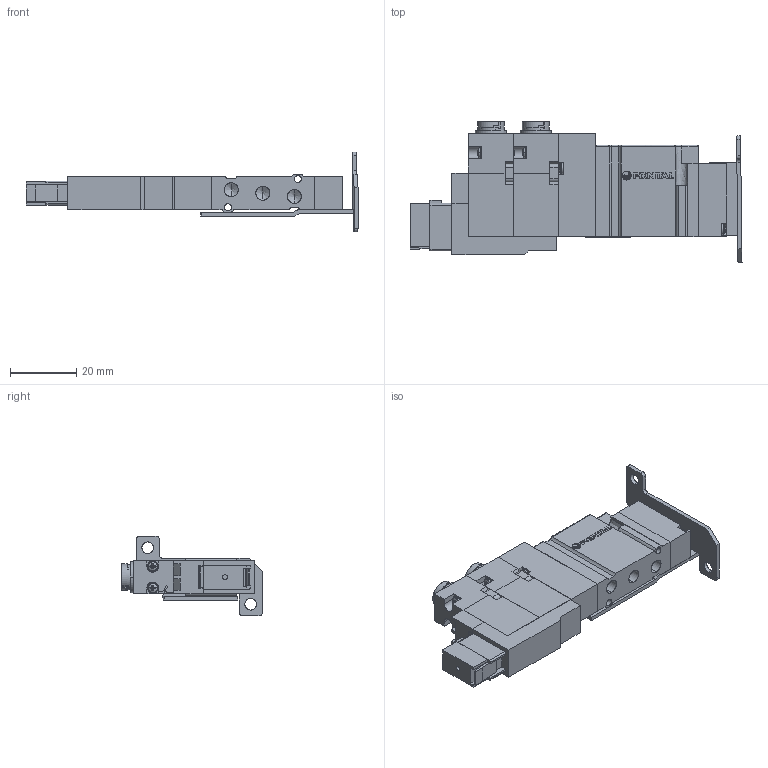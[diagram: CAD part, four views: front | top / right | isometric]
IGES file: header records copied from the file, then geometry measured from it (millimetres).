
Start section: SolidWorks IGES file using analytic representation for surfaces
Global section: file name: D:\Custom\3D繪製\ADEX\A05F\A05FD25#-BF-#-#-E.IGS,1; native system: 5HSolidWorks 2014; preprocessor: SolidWorks 2014; author: Chieh_Lu; date: 150809.153902; units: millimetre
Bounding box: 99.94 x 42.34 x 24 mm (x, y, z)
Surface area: 18810.8 mm2 (no closed solid volume)
Topology: 0 solids, 0 shells, 941 faces, 8002 edges, 7968 vertices
Faces by surface type: bspline 636, revolution 305
